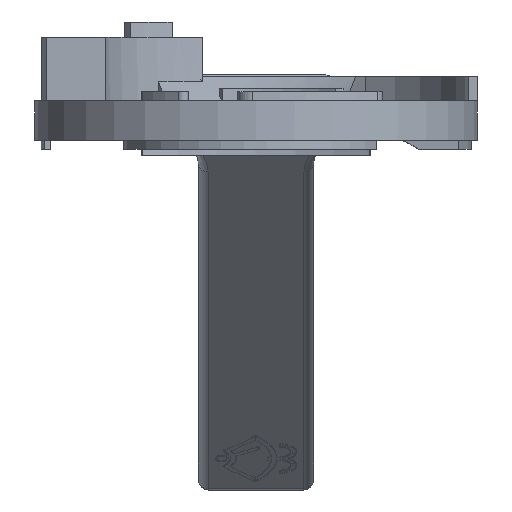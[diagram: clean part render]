
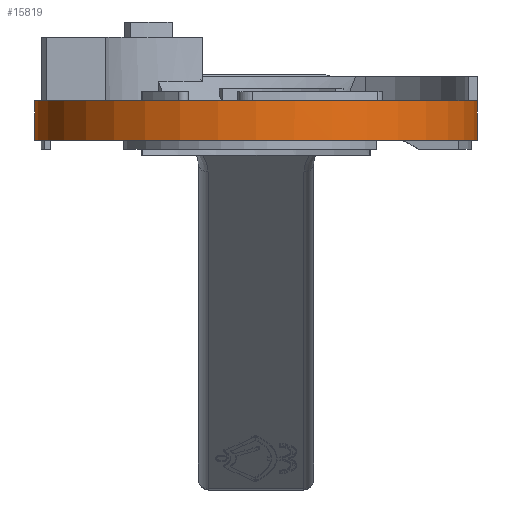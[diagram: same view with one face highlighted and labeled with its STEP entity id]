
A CAD part, front view. The second image highlights one B-rep face of the part: STEP entity #15819.
In plain terms, the highlighted cylindrical face has radius 36.5 mm (diameter 73 mm), a partial arc.
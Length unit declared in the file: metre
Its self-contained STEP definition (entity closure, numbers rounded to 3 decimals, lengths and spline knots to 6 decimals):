
#143=CYLINDRICAL_SURFACE('',#16785,0.0365);
#214=CIRCLE('',#16747,0.0365);
#238=CIRCLE('',#16776,0.0365);
#239=CIRCLE('',#16786,0.0365);
#686=ORIENTED_EDGE('',*,*,#5153,.T.);
#687=ORIENTED_EDGE('',*,*,#5424,.F.);
#688=ORIENTED_EDGE('',*,*,#5425,.F.);
#689=ORIENTED_EDGE('',*,*,#5426,.T.);
#690=ORIENTED_EDGE('',*,*,#5106,.F.);
#691=ORIENTED_EDGE('',*,*,#5427,.T.);
#5106=EDGE_CURVE('',#7474,#7475,#214,.T.);
#5153=EDGE_CURVE('',#7512,#7519,#238,.T.);
#5424=EDGE_CURVE('',#7790,#7519,#9314,.T.);
#5425=EDGE_CURVE('',#7791,#7790,#239,.T.);
#5426=EDGE_CURVE('',#7791,#7475,#9315,.T.);
#5427=EDGE_CURVE('',#7474,#7512,#9316,.T.);
#7474=VERTEX_POINT('',#21866);
#7475=VERTEX_POINT('',#21868);
#7512=VERTEX_POINT('',#21950);
#7519=VERTEX_POINT('',#21963);
#7790=VERTEX_POINT('',#22509);
#7791=VERTEX_POINT('',#22511);
#9314=LINE('',#22508,#11492);
#9315=LINE('',#22512,#11493);
#9316=LINE('',#22513,#11494);
#11492=VECTOR('',#18127,1.);
#11493=VECTOR('',#18130,1.);
#11494=VECTOR('',#18131,1.);
#13376=EDGE_LOOP('',(#686,#687,#688,#689,#690,#691));
#14232=FACE_BOUND('',#13376,.T.);
#15819=ADVANCED_FACE('',(#14232),#143,.T.);
#16747=AXIS2_PLACEMENT_3D('',#21867,#17762,#17763);
#16776=AXIS2_PLACEMENT_3D('',#21964,#17843,#17844);
#16785=AXIS2_PLACEMENT_3D('',#22507,#18125,#18126);
#16786=AXIS2_PLACEMENT_3D('',#22510,#18128,#18129);
#17762=DIRECTION('',(0.,0.,1.));
#17763=DIRECTION('',(1.,0.,0.));
#17843=DIRECTION('',(0.,0.,1.));
#17844=DIRECTION('',(1.,0.,0.));
#18125=DIRECTION('',(0.,0.,-1.));
#18126=DIRECTION('',(-1.,0.,0.));
#18127=DIRECTION('',(0.,0.,-1.));
#18128=DIRECTION('',(0.,0.,1.));
#18129=DIRECTION('',(1.,0.,0.));
#18130=DIRECTION('',(0.,0.,-1.));
#18131=DIRECTION('',(0.,0.,-1.));
#21866=CARTESIAN_POINT('',(-0.018295,0.031584,0.0065));
#21867=CARTESIAN_POINT('',(0.,0.,0.0065));
#21868=CARTESIAN_POINT('',(0.0365,0.,0.0065));
#21950=CARTESIAN_POINT('',(-0.018295,0.031584,0.));
#21963=CARTESIAN_POINT('',(0.018295,0.031584,0.));
#21964=CARTESIAN_POINT('',(0.,0.,0.));
#22507=CARTESIAN_POINT('',(0.,0.,0.0065));
#22508=CARTESIAN_POINT('',(0.018295,0.031584,0.0105));
#22509=CARTESIAN_POINT('',(0.018295,0.031584,0.0105));
#22510=CARTESIAN_POINT('',(0.,0.,0.0105));
#22511=CARTESIAN_POINT('',(0.0365,0.,0.0105));
#22512=CARTESIAN_POINT('',(0.0365,0.,0.0105));
#22513=CARTESIAN_POINT('',(-0.018295,0.031584,0.0065));
